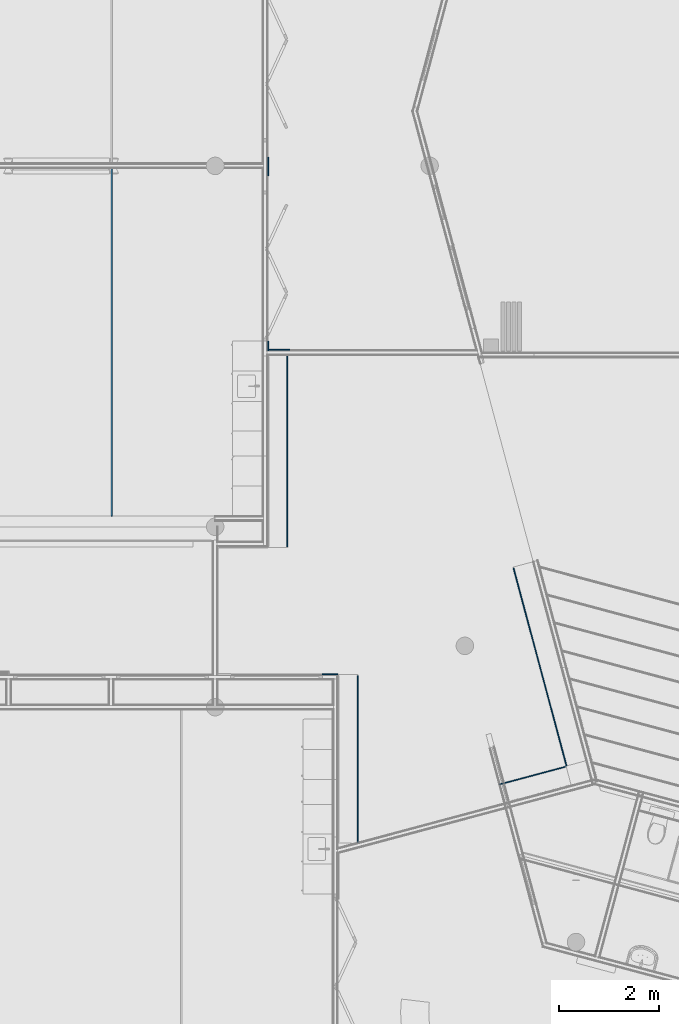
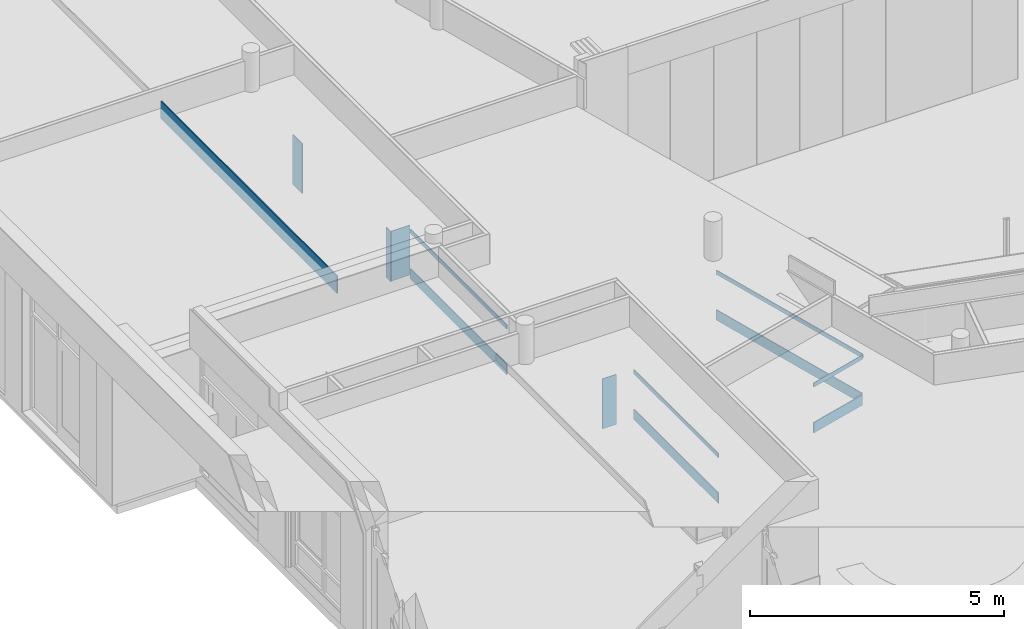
# One storey, part 15 of 167: 13 walls.
"""IFC2X3 building model written with IfcOpenShell, lengths in millimetres."""

from ifc_helpers import new_model, entity, si_unit, converted_unit, derived_unit, money_unit, direction, frame, origin_with_axes, place, context, subcontext, project, spatial, faceted_brep, material, type_object, element, save


model = new_model("IFC2X3")

# Units and contexts
model_context = context("Model", 3, precision=0.01, world=origin_with_axes(), true_north=direction((0.0, 1.0)))
plan_context = context("Plan", 3, precision=0.01, world=origin_with_axes(), true_north=direction((0.0, 1.0)))
body_context = subcontext(model_context, "Body", "Model", "MODEL_VIEW")
ifc_project = project(units=[si_unit("LENGTHUNIT", "METRE", prefix="MILLI"), si_unit("AREAUNIT", "SQUARE_METRE"), si_unit("VOLUMEUNIT", "CUBIC_METRE"), converted_unit("PLANEANGLEUNIT", "DEGREE", entity("IfcPlaneAngleMeasure", 0.0174532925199), si_unit("PLANEANGLEUNIT", "RADIAN"), dimensions=[0, 0, 0, 0, 0, 0, 0]), si_unit("SOLIDANGLEUNIT", "STERADIAN"), money_unit("EUR"), converted_unit("TIMEUNIT", "Year", entity("IfcTimeMeasure", 31556926.0), si_unit("TIMEUNIT", "SECOND"), dimensions=[0, 0, 1, 0, 0, 0, 0]), si_unit("MASSUNIT", "GRAM", prefix="KILO"), si_unit("THERMODYNAMICTEMPERATUREUNIT", "DEGREE_CELSIUS"), si_unit("LUMINOUSINTENSITYUNIT", "LUMEN"), si_unit("ENERGYUNIT", "JOULE", prefix="MEGA"), derived_unit("THERMALCONDUCTANCEUNIT", [(si_unit("POWERUNIT", "WATT"), 1), (si_unit("LENGTHUNIT", "METRE"), -1), (si_unit("THERMODYNAMICTEMPERATUREUNIT", "KELVIN"), -1)]), derived_unit("SPECIFICHEATCAPACITYUNIT", [(si_unit("ENERGYUNIT", "JOULE"), 1), (si_unit("MASSUNIT", "GRAM", prefix="KILO"), -1), (si_unit("THERMODYNAMICTEMPERATUREUNIT", "KELVIN"), -1)]), derived_unit("MASSDENSITYUNIT", [(si_unit("MASSUNIT", "GRAM", prefix="KILO"), 1), (si_unit("VOLUMEUNIT", "CUBIC_METRE"), -1)])], contexts=[model_context, plan_context])

# Site, building, storey
site_placement = place(None, origin_with_axes())
site = spatial("IfcSite", under=ifc_project, at=site_placement, Name="Site", CompositionType="ELEMENT")
building_placement = place(site_placement, origin_with_axes())
building = spatial("IfcBuilding", under=site, at=building_placement, Name="Naam gebouw", CompositionType="ELEMENT")
storey_placement = place(building_placement, origin_with_axes())
storey = spatial("IfcBuildingStorey", under=building, at=storey_placement, Name="Begane grond", CompositionType="ELEMENT", Elevation=0.0)

# Walls
ifc_material_1 = material(Name="Hout - Spaanplaat")
wall_type_1 = type_object("IfcWallType", Name="Hout - Spaanplaat 25", PredefinedType="NOTDEFINED")
wall_1_placement = place(storey_placement, frame((5125.0, 21600.0, 2810.0), z_axis=(0.0, 0.0, 1.0), x_axis=(0.0, 1.0, 0.0)))
element("IfcWall", 1, at=wall_1_placement, inside=storey, type_object=wall_type_1, material=ifc_material_1, Name="21_Wand_Wand-x", context=body_context, shape_type="Brep", body=[
    faceted_brep([(7162.5, -25.0, 420.0), (7162.5, 0.0, 420.0), (214.0, 0.0, 420.0), (214.0, -25.0, 420.0), (7162.5, -25.0, 0.0), (7162.5, 0.0, 0.0), (214.0, 0.0, 0.0), (214.0, -25.0, 0.0)], [[[0, 1, 2, 3]], [[1, 0, 4, 5]], [[1, 5, 6, 2]], [[7, 3, 2, 6]], [[4, 0, 3, 7]], [[5, 4, 7, 6]]]),
])
wall_type_2 = type_object("IfcWallType", Name="Hout - Spaanplaat 20", PredefinedType="NOTDEFINED")
wall_2_placement = place(storey_placement, frame((8650.0, 21202.5, 0.0), z_axis=(0.0, 0.0, 1.0), x_axis=(0.0, 1.0, 0.0)))
element("IfcWall", 2, at=wall_2_placement, inside=storey, type_object=wall_type_2, material=ifc_material_1, Name="21_Wand_Wand-x", context=body_context, shape_type="Brep", body=[
    faceted_brep([(0.0, 20.0, 0.0), (3799.04575717, 20.0, 0.0), (3799.04575717, 0.0, 0.0), (0.0, 0.0, 0.0), (0.0, 20.0, 250.0), (3799.04575717, 20.0, 250.0), (3799.04575717, 0.0, 250.0), (0.0, 0.0, 250.0)], [[[0, 1, 2, 3]], [[4, 5, 1, 0]], [[2, 1, 5, 6]], [[3, 2, 6, 7]], [[4, 0, 3, 7]], [[7, 6, 5, 4]]]),
])
wall_3_placement = place(storey_placement, frame((8650.0, 21202.5, 1100.0), z_axis=(0.0, 0.0, 1.0), x_axis=(0.0, 1.0, 0.0)))
element("IfcWall", 3, at=wall_3_placement, inside=storey, type_object=wall_type_2, material=ifc_material_1, Name="21_Wand_Wand-x", context=body_context, shape_type="Brep", body=[
    faceted_brep([(0.0, 20.0, 0.0), (3799.04575717, 20.0, 0.0), (3799.04575717, 0.0, 0.0), (0.0, 0.0, 0.0), (0.0, 20.0, 100.0), (3799.04575717, 20.0, 100.0), (3799.04575717, 0.0, 100.0), (0.0, 0.0, 100.0)], [[[0, 1, 2, 3]], [[4, 5, 1, 0]], [[2, 1, 5, 6]], [[3, 2, 6, 7]], [[4, 0, 3, 7]], [[7, 6, 5, 4]]]),
])
wall_4_placement = place(storey_placement, frame((10050.0, 15293.5427882, 0.0), z_axis=(0.0, 0.0, 1.0), x_axis=(0.0, 1.0, 0.0)))
element("IfcWall", 4, at=wall_4_placement, inside=storey, type_object=wall_type_2, material=ifc_material_1, Name="21_Wand_Wand-x", context=body_context, shape_type="Brep", body=[
    faceted_brep([(0.0, 20.0, 0.0), (3336.45721185, 20.0, 0.0), (3336.45721185, 0.0, 0.0), (0.0, 0.0, 0.0), (0.0, 20.0, 250.0), (3336.45721185, 20.0, 250.0), (3336.45721185, 0.0, 250.0), (0.0, 0.0, 250.0)], [[[0, 1, 2, 3]], [[4, 5, 1, 0]], [[2, 1, 5, 6]], [[3, 2, 6, 7]], [[4, 0, 3, 7]], [[7, 6, 5, 4]]]),
])
wall_5_placement = place(storey_placement, frame((10050.0, 15293.5427882, 1100.0), z_axis=(0.0, 0.0, 1.0), x_axis=(0.0, 1.0, 0.0)))
element("IfcWall", 5, at=wall_5_placement, inside=storey, type_object=wall_type_2, material=ifc_material_1, Name="21_Wand_Wand-x", context=body_context, shape_type="Brep", body=[
    faceted_brep([(0.0, 20.0, 0.0), (3336.45721185, 20.0, 0.0), (3336.45721185, 0.0, 0.0), (0.0, 0.0, 0.0), (0.0, 20.0, 100.0), (3336.45721185, 20.0, 100.0), (3336.45721185, 0.0, 100.0), (0.0, 0.0, 100.0)], [[[0, 1, 2, 3]], [[4, 5, 1, 0]], [[2, 1, 5, 6]], [[3, 2, 6, 7]], [[4, 0, 3, 7]], [[7, 6, 5, 4]]]),
])
wall_6_placement = place(storey_placement, frame((9340.08004739, 18650.0, 0.0), z_axis=(0.0, 0.0, 1.0), x_axis=(1.0, 0.0, 0.0)))
element("IfcWall", 6, at=wall_6_placement, inside=storey, type_object=wall_type_2, material=ifc_material_1, Name="21_Wand_Wand-x", context=body_context, shape_type="Brep", body=[
    faceted_brep([(0.0, 20.0, 0.0), (309.919952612, 20.0, 0.0), (309.919952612, 0.0, 0.0), (0.0, 0.0, 0.0), (0.0, 20.0, 1200.0), (309.919952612, 20.0, 1200.0), (309.919952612, 0.0, 1200.0), (0.0, 0.0, 1200.0)], [[[0, 1, 2, 3]], [[4, 5, 1, 0]], [[2, 1, 5, 6]], [[3, 2, 6, 7]], [[4, 0, 3, 7]], [[7, 6, 5, 4]]]),
])
wall_7_placement = place(storey_placement, frame((8250.0, 28975.0, 0.0), z_axis=(0.0, 0.0, 1.0), x_axis=(0.0, -1.0, 0.0)))
element("IfcWall", 7, at=wall_7_placement, inside=storey, type_object=wall_type_2, material=ifc_material_1, Name="21_Wand_Wand-x", context=body_context, shape_type="Brep", body=[
    faceted_brep([(0.0, 20.0, 0.0), (371.0, 20.0, 0.0), (371.0, 0.0, 0.0), (0.0, 0.0, 0.0), (0.0, 20.0, 1200.0), (371.0, 20.0, 1200.0), (371.0, 0.0, 1200.0), (0.0, 0.0, 1200.0)], [[[0, 1, 2, 3]], [[4, 5, 1, 0]], [[2, 1, 5, 6]], [[3, 2, 6, 7]], [[4, 0, 3, 7]], [[7, 6, 5, 4]]]),
])
wall_8_placement = place(storey_placement, frame((8250.0, 25304.0, 0.0), z_axis=(0.0, 0.0, 1.0), x_axis=(0.0, -1.0, 0.0)))
element("IfcWall", 8, at=wall_8_placement, inside=storey, type_object=wall_type_2, material=ifc_material_1, Name="21_Wand_Wand-x", context=body_context, shape_type="Brep", body=[
    faceted_brep([(194.95424283, 20.0, 0.0), (194.95424283, 0.0, 0.0), (0.0, 0.0, 0.0), (0.0, 20.0, 0.0), (194.95424283, 20.0, 1200.0), (194.95424283, 0.0, 1200.0), (0.0, 0.0, 1200.0), (0.0, 20.0, 1200.0)], [[[0, 1, 2, 3]], [[1, 0, 4, 5]], [[1, 5, 6, 2]], [[7, 3, 2, 6]], [[4, 0, 3, 7]], [[5, 4, 7, 6]]]),
])
wall_9_placement = place(storey_placement, frame((8250.0, 25121.5457572, 0.0), z_axis=(0.0, 0.0, 1.0), x_axis=(1.0, 0.0, 0.0)))
element("IfcWall", 9, at=wall_9_placement, inside=storey, type_object=wall_type_2, material=ifc_material_1, Name="21_Wand_Wand-x", context=body_context, shape_type="Brep", body=[
    faceted_brep([(20.0, 20.0, 0.0), (441.901144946, 20.0, 0.0), (441.901144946, 0.0, 0.0), (20.0, 0.0, 0.0), (20.0, 20.0, 1200.0), (441.901144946, 20.0, 1200.0), (441.901144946, 0.0, 1200.0), (20.0, 0.0, 1200.0)], [[[0, 1, 2, 3]], [[4, 5, 1, 0]], [[2, 1, 5, 6]], [[3, 2, 6, 7]], [[4, 0, 3, 7]], [[7, 6, 5, 4]]]),
])
ifc_material_2 = material(Name="_TenW_82_afw bamboe")
wall_type_3 = type_object("IfcWallType", Name="_TenW_82_afw bamboe 20", PredefinedType="NOTDEFINED")
wall_10_placement = place(storey_placement, frame((13142.6588872, 20773.7525556, 0.0), z_axis=(0.0, 0.0, 1.0), x_axis=(0.258819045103, -0.965925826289, 0.0)))
element("IfcWall", 10, at=wall_10_placement, inside=storey, type_object=wall_type_3, material=ifc_material_2, Name="21_Wand_Wand-x", context=body_context, shape_type="Brep", body=[
    faceted_brep([(0.0, 20.0, 0.0), (4067.75680204, 20.0, 0.0), (4067.75680204, 0.0, 0.0), (0.0, 0.0, 0.0), (0.0, 20.0, 250.0), (4067.75680204, 20.0, 250.0), (4067.75680204, 0.0, 250.0), (0.0, 0.0, 250.0)], [[[0, 1, 2, 3]], [[4, 5, 1, 0]], [[2, 1, 5, 6]], [[3, 2, 6, 7]], [[4, 0, 3, 7]], [[7, 6, 5, 4]]]),
])
wall_11_placement = place(storey_placement, frame((13142.6588872, 20773.7525556, 1100.0), z_axis=(0.0, 0.0, 1.0), x_axis=(0.258819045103, -0.965925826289, 0.0)))
element("IfcWall", 11, at=wall_11_placement, inside=storey, type_object=wall_type_3, material=ifc_material_2, Name="21_Wand_Wand-x", context=body_context, shape_type="Brep", body=[
    faceted_brep([(0.0, 20.0, 0.0), (4087.75680204, 20.0, 0.0), (4087.75680204, 0.0, 0.0), (0.0, 0.0, 0.0), (0.0, 20.0, 100.0), (4087.75680204, 20.0, 100.0), (4087.75680204, 0.0, 100.0), (0.0, 0.0, 100.0)], [[[0, 1, 2, 3]], [[4, 5, 1, 0]], [[2, 1, 5, 6]], [[3, 2, 6, 7]], [[4, 0, 3, 7]], [[7, 6, 5, 4]]]),
])
wall_12_placement = place(storey_placement, frame((14181.3296828, 16820.106308, 0.0), z_axis=(0.0, 0.0, 1.0), x_axis=(-0.965925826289, -0.258819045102, 0.0)))
element("IfcWall", 12, at=wall_12_placement, inside=storey, type_object=wall_type_3, material=ifc_material_2, Name="21_Wand_Wand-x", context=body_context, shape_type="Brep", body=[
    faceted_brep([(0.0, 20.0, 0.0), (1360.0, 20.0, 0.0), (1360.0, 0.0, 0.0), (0.0, 0.0, 0.0), (0.0, 20.0, 250.0), (1360.0, 20.0, 250.0), (1360.0, 0.0, 250.0), (0.0, 0.0, 250.0)], [[[0, 1, 2, 3]], [[4, 5, 1, 0]], [[2, 1, 5, 6]], [[3, 2, 6, 7]], [[4, 0, 3, 7]], [[7, 6, 5, 4]]]),
])
wall_13_placement = place(storey_placement, frame((14181.3296828, 16820.106308, 1100.0), z_axis=(0.0, 0.0, 1.0), x_axis=(-0.965925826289, -0.258819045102, 0.0)))
element("IfcWall", 13, at=wall_13_placement, inside=storey, type_object=wall_type_3, material=ifc_material_2, Name="21_Wand_Wand-x", context=body_context, shape_type="Brep", body=[
    faceted_brep([(0.0, 20.0, 0.0), (1360.0, 20.0, 0.0), (1360.0, 0.0, 0.0), (0.0, 0.0, 0.0), (0.0, 20.0, 100.0), (1360.0, 20.0, 100.0), (1360.0, 0.0, 100.0), (0.0, 0.0, 100.0)], [[[0, 1, 2, 3]], [[4, 5, 1, 0]], [[2, 1, 5, 6]], [[3, 2, 6, 7]], [[4, 0, 3, 7]], [[7, 6, 5, 4]]]),
])

save(model, "model.ifc")
